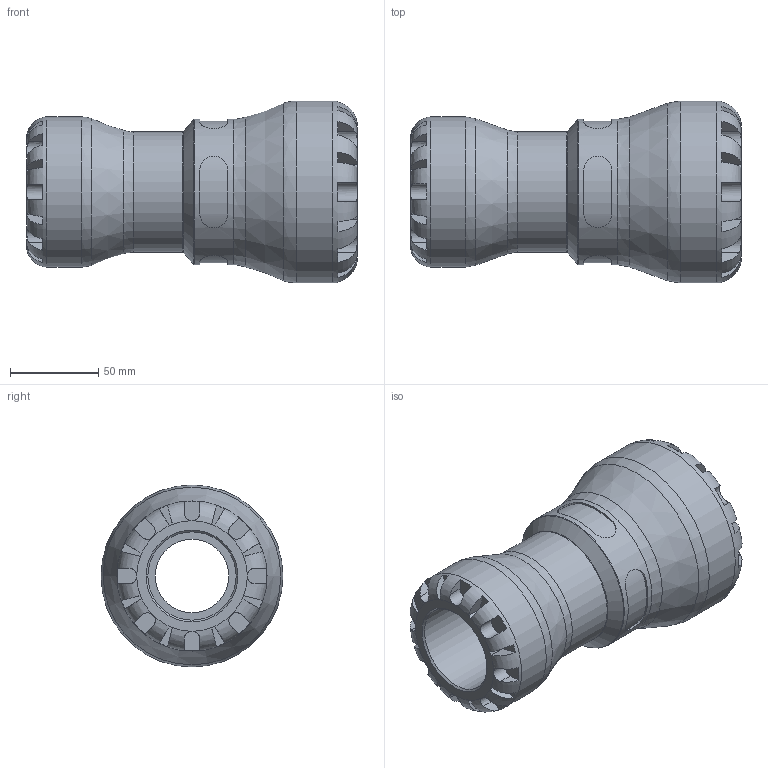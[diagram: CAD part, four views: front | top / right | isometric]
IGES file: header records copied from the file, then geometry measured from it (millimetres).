
Global section: file name: 101100063050_191100063050.ipt; native system: Autodesk Inventor 2015; preprocessor: unknown; author: KIM; date: 20190627.094244; units: millimetre
Bounding box: 187 x 103 x 103 mm (x, y, z)
Volume: 579942.9 mm3; surface area: 98075 mm2
Topology: 1 solids, 1 shells, 172 faces, 451 edges, 286 vertices
Faces by surface type: plane 108, revolution 37, cylinder 24, cone 3
Full cylindrical faces by diameter (mm): 68 x1, 82.4 x1, 85 x1, 103 x1
